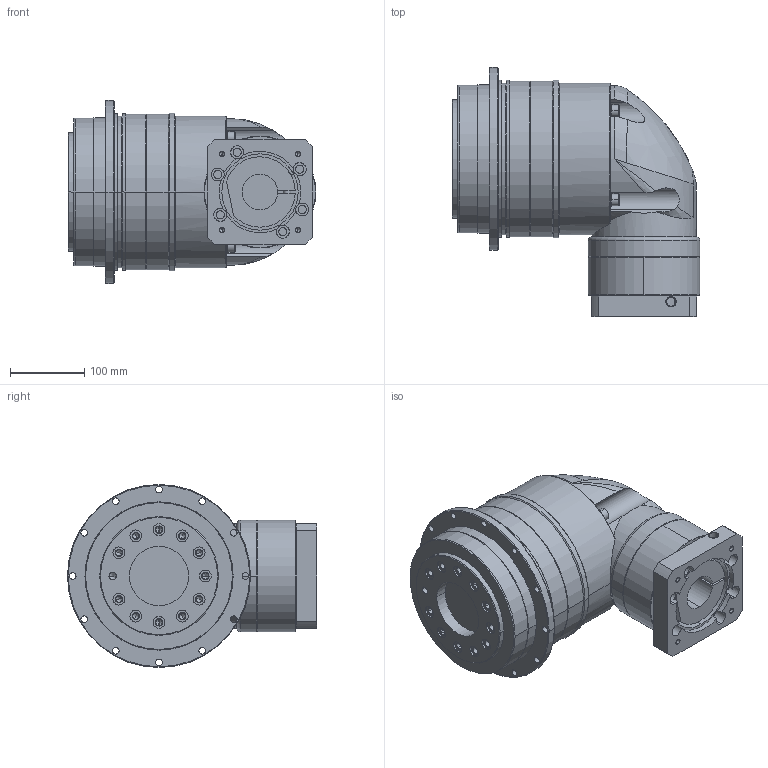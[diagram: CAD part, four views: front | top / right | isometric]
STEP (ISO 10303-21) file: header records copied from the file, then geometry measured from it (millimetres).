
FILE_DESCRIPTION((''),'2;1');
FILE_NAME('ADR2001-P0403600102_ASM','2024-05-17T',('Administrator'),(''),'PRO/ENGINEER BY PARAMETRIC TECHNOLOGY CORPORATION, 2015240','PRO/ENGINEER BY PARAMETRIC TECHNOLOGY CORPORATION, 2015240','');
FILE_SCHEMA(('CONFIG_CONTROL_DESIGN'));
Length unit declared in the file: millimetre
Products named in the file (8): P1305600001_D; P1052600001_D; P1306600001_D; AD200; AB-INPUTSHAFT-6; ADR2001_ASM; P0403600102-0018; ADR2001-P0403600102_ASM
Assembly tree (7 placements, depth 3):
  ADR2001-P0403600102_ASM
    ADR2001_ASM
      P1305600001_D
      P1052600001_D
      P1306600001_D
      AD200
      AB-INPUTSHAFT-6
    P0403600102-0018
Bounding box: 334.5 x 336 x 247 mm (x, y, z)
Volume: 10341638.2 mm3; surface area: 664560.7 mm2
Topology: 6 solids, 22 shells, 419 faces, 1002 edges, 628 vertices
Faces by surface type: cylinder 228, plane 88, cone 66, torus 19, bspline 18
Entity records: 13319 total; most frequent: CARTESIAN_POINT 3171, DIRECTION 2309, ORIENTED_EDGE 1872, AXIS2_PLACEMENT_3D 983, EDGE_CURVE 968, VERTEX_POINT 628, CIRCLE 558, EDGE_LOOP 530
